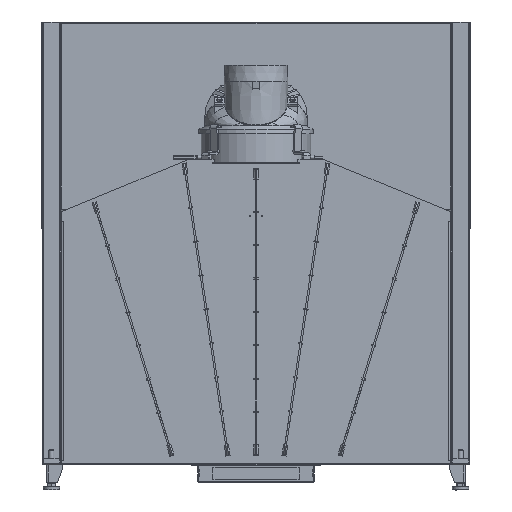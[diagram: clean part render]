
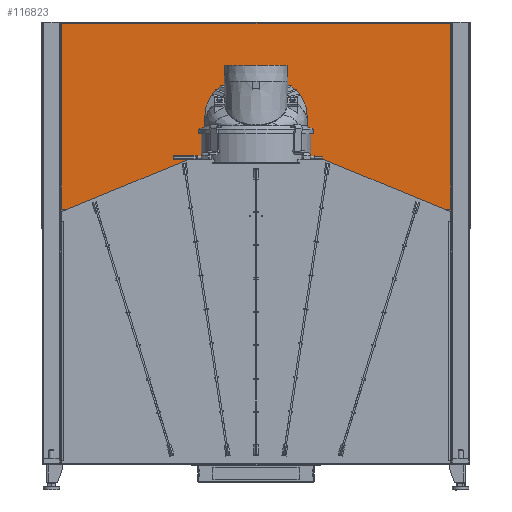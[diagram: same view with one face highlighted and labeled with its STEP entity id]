
A CAD part, front view. The second image highlights one B-rep face of the part: STEP entity #116823.
In plain terms, the highlighted planar face has unit normal (0, -1, 0).
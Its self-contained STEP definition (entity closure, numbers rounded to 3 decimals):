
#5060=FACE_OUTER_BOUND('',#11350,.T.);
#11350=EDGE_LOOP('',(#76759,#76760,#76761,#76762,#76763,#76764,#76765,#76766,
#76767,#76768));
#23265=LINE('',#171301,#34655);
#23396=LINE('',#171670,#34786);
#23398=LINE('',#171673,#34788);
#23403=LINE('',#171689,#34793);
#23465=LINE('',#171914,#34855);
#23467=LINE('',#171920,#34857);
#23474=LINE('',#171975,#34864);
#23480=LINE('',#172017,#34870);
#23494=LINE('',#172075,#34884);
#23495=LINE('',#172078,#34885);
#34655=VECTOR('',#137237,10.);
#34786=VECTOR('',#137556,10.);
#34788=VECTOR('',#137560,10.);
#34793=VECTOR('',#137579,10.);
#34855=VECTOR('',#137777,10.);
#34857=VECTOR('',#137783,10.);
#34864=VECTOR('',#137796,10.);
#34870=VECTOR('',#137808,10.);
#34884=VECTOR('',#137862,10.);
#34885=VECTOR('',#137867,10.);
#46116=VERTEX_POINT('',#171298);
#46117=VERTEX_POINT('',#171300);
#46257=VERTEX_POINT('',#171651);
#46260=VERTEX_POINT('',#171663);
#46265=VERTEX_POINT('',#171687);
#46285=VERTEX_POINT('',#171833);
#46286=VERTEX_POINT('',#171856);
#46288=VERTEX_POINT('',#171908);
#46290=VERTEX_POINT('',#171919);
#46294=VERTEX_POINT('',#171974);
#57511=EDGE_CURVE('',#46117,#46116,#23265,.T.);
#57699=EDGE_CURVE('',#46257,#46117,#23396,.T.);
#57701=EDGE_CURVE('',#46116,#46260,#23398,.T.);
#57709=EDGE_CURVE('',#46260,#46265,#23403,.T.);
#57791=EDGE_CURVE('',#46265,#46288,#23465,.T.);
#57794=EDGE_CURVE('',#46286,#46290,#23467,.T.);
#57804=EDGE_CURVE('',#46290,#46294,#23474,.T.);
#57812=EDGE_CURVE('',#46294,#46288,#23480,.T.);
#57832=EDGE_CURVE('',#46286,#46285,#23494,.T.);
#57833=EDGE_CURVE('',#46285,#46257,#23495,.T.);
#76759=ORIENTED_EDGE('',*,*,#57791,.T.);
#76760=ORIENTED_EDGE('',*,*,#57812,.F.);
#76761=ORIENTED_EDGE('',*,*,#57804,.F.);
#76762=ORIENTED_EDGE('',*,*,#57794,.F.);
#76763=ORIENTED_EDGE('',*,*,#57832,.T.);
#76764=ORIENTED_EDGE('',*,*,#57833,.T.);
#76765=ORIENTED_EDGE('',*,*,#57699,.T.);
#76766=ORIENTED_EDGE('',*,*,#57511,.T.);
#76767=ORIENTED_EDGE('',*,*,#57701,.T.);
#76768=ORIENTED_EDGE('',*,*,#57709,.T.);
#107310=PLANE('',#124039);
#116823=ADVANCED_FACE('',(#5060),#107310,.T.);
#124039=AXIS2_PLACEMENT_3D('',#172079,#137868,#137869);
#137237=DIRECTION('',(1.,0.,0.));
#137556=DIRECTION('',(1.,0.,0.));
#137560=DIRECTION('',(1.,0.,0.));
#137579=DIRECTION('',(1.,0.,0.));
#137777=DIRECTION('',(0.,0.,1.));
#137783=DIRECTION('',(1.,0.,0.));
#137796=DIRECTION('',(1.,0.,0.));
#137808=DIRECTION('',(1.,0.,0.));
#137862=DIRECTION('',(0.,0.,-1.));
#137867=DIRECTION('',(1.,0.,0.));
#137868=DIRECTION('center_axis',(0.,-1.,0.));
#137869=DIRECTION('ref_axis',(0.,0.,
-1.));
#171298=CARTESIAN_POINT('',(565.5,-10.,791.154));
#171300=CARTESIAN_POINT('',(-565.5,-10.,791.154));
#171301=CARTESIAN_POINT('',(0.,-10.,791.154));
#171651=CARTESIAN_POINT('',(-566.,-10.,791.154));
#171663=CARTESIAN_POINT('',(566.,-10.,791.154));
#171670=CARTESIAN_POINT('',(0.,-10.,791.154));
#171673=CARTESIAN_POINT('',(0.,-10.,791.154));
#171687=CARTESIAN_POINT('',(602.75,-10.,791.154));
#171689=CARTESIAN_POINT('',(0.,-10.,791.154));
#171833=CARTESIAN_POINT('',(-602.75,-10.,791.154));
#171856=CARTESIAN_POINT('',(-602.75,-10.,1365.75));
#171908=CARTESIAN_POINT('',(602.75,-10.,1365.75));
#171914=CARTESIAN_POINT('',(602.75,-10.,1225.703));
#171919=CARTESIAN_POINT('',(-601.25,-10.,1365.75));
#171920=CARTESIAN_POINT('',(0.,-10.,1365.75));
#171974=CARTESIAN_POINT('',(601.25,-10.,1365.75));
#171975=CARTESIAN_POINT('',(0.,-10.,1365.75));
#172017=CARTESIAN_POINT('',(0.,-10.,1365.75));
#172075=CARTESIAN_POINT('',(-602.75,-10.,938.405));
#172078=CARTESIAN_POINT('',(0.,-10.,791.154));
#172079=CARTESIAN_POINT('Origin',(0.,-10.,
1085.656));
